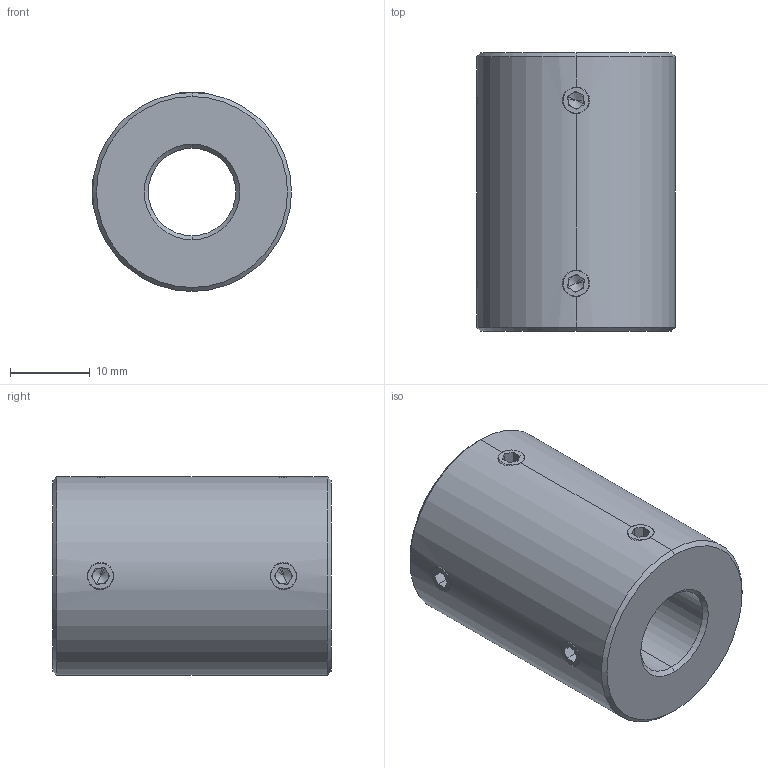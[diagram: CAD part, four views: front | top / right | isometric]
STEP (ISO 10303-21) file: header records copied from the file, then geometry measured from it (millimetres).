
FILE_DESCRIPTION (( 'STEP AP214' ), '1' );
FILE_NAME ('LL-D-D25L35-11-11½¨Ä£.STEP', '2022-07-23T00:44:41', ( '' ), ( '' ), 'SwSTEP 2.0', 'SolidWorks 2022', '' );
FILE_SCHEMA (( 'AUTOMOTIVE_DESIGN' ));
Length unit declared in the file: millimetre
Products named in the file (1): LL-D-D25L35-11-11膘耀
Bounding box: 25 x 35 x 25 mm (x, y, z)
Volume: 13696.1 mm3; surface area: 4880.5 mm2
Topology: 1 solids, 1 shells, 110 faces, 280 edges, 172 vertices
Faces by surface type: plane 58, cone 32, cylinder 20
Entity records: 3642 total; most frequent: CARTESIAN_POINT 999, ORIENTED_EDGE 544, DIRECTION 542, EDGE_CURVE 272, AXIS2_PLACEMENT_3D 199, VERTEX_POINT 172, VECTOR 144, LINE 144
